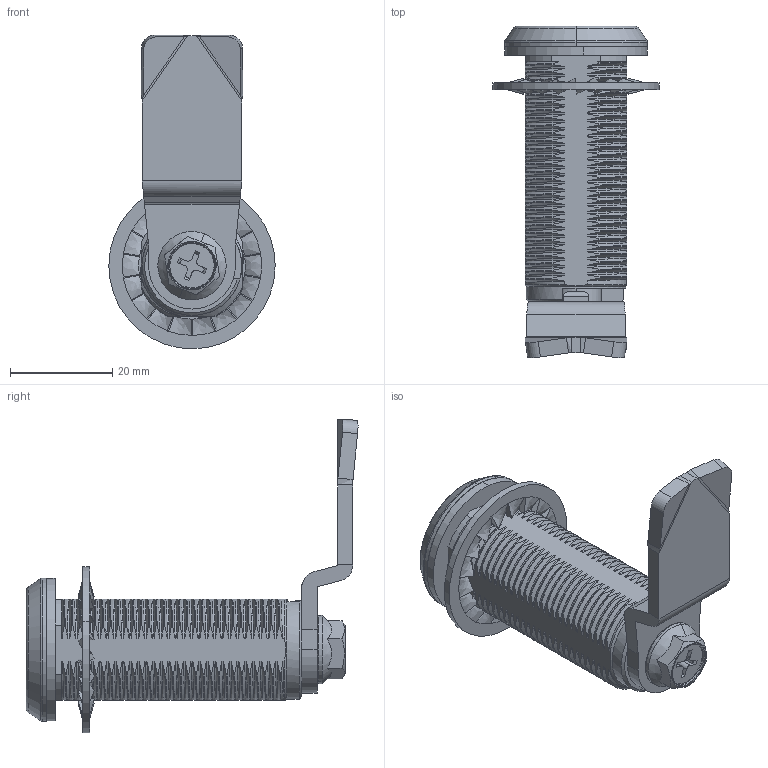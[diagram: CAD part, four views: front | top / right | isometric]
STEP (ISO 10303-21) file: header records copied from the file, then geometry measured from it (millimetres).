
FILE_DESCRIPTION (( 'STEP AP214' ), '1' );
FILE_NAME ('D1-1405-037蚾饜芞.STEP', '2026-06-17T01:18:37', ( '' ), ( '' ), 'SwSTEP 2.0', 'SolidWorks 2020', '' );
FILE_SCHEMA (( 'AUTOMOTIVE_DESIGN' ));
Length unit declared in the file: millimetre
Products named in the file (9): 10.2X0.3等疏え; M6X8蹟隊; CAM4507; D1-1405-037坶褲; D1-1405-037坶郋; D1-1405-037蚾饜芞; M22喘菜; 2X16密封圈; M22x1.7砎蝶菜
Assembly tree (8 placements, depth 2):
  D1-1405-037蚾饜芞
    D1-1405-037坶褲
    M6X8蹟隊
    10.2X0.3等疏え
    2X16密封圈
    D1-1405-037坶郋
    M22喘菜
    M22x1.7砎蝶菜
    CAM4507
Bounding box: 32.58 x 65.01 x 61.44 mm (x, y, z)
Volume: 22103.7 mm3; surface area: 16858.6 mm2
Topology: 8 solids, 8 shells, 826 faces, 2326 edges, 1521 vertices
Faces by surface type: bspline 390, cylinder 258, plane 136, cone 23, torus 19
Entity records: 363998 total; most frequent: CARTESIAN_POINT 347231, ORIENTED_EDGE 4652, EDGE_CURVE 2326, DIRECTION 1930, VERTEX_POINT 1521, EDGE_LOOP 843, FACE_OUTER_BOUND 826, ADVANCED_FACE 826
